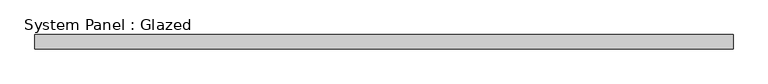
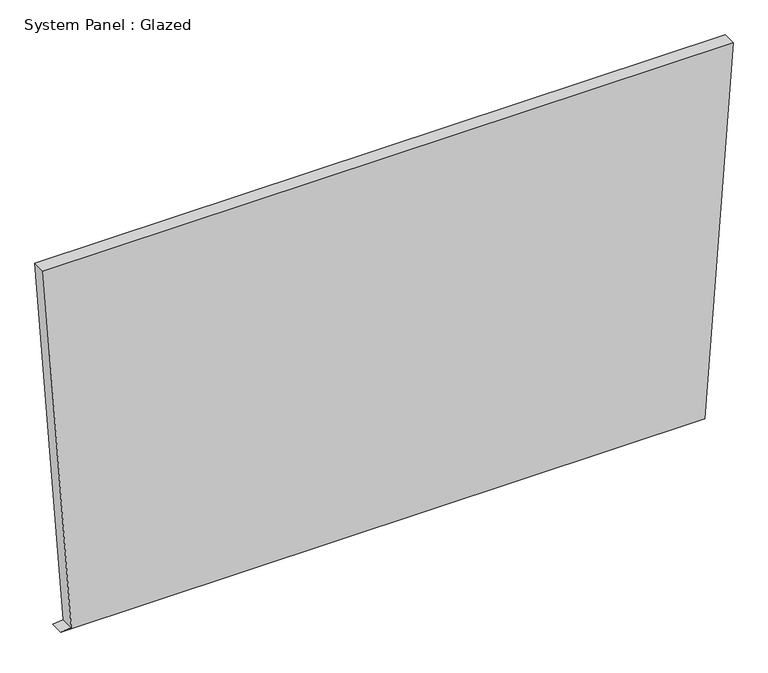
"""IFC4 building model written with IfcOpenShell, lengths in millimetres: plate geometry, System Panel : Glazed."""

from ifc_helpers import new_model, si_unit, frame, origin, place, context, project, spatial, polyline, outline, extrude, source, transform, mapped, element, save


def system_panel_glazed_fd4f438a(model_context):
    return source(origin(), model_context, "Body", "SweptSolid", [
        extrude(outline(polyline([(0.0, -594.7766719), (0.0027267, 575.6761515), (703.9399039, 626.9695531), (703.9369827, -626.9695531), (1.3844354, -575.7770446), (0.0, -594.7766719)])), frame((0.0, 19.05, 0.0), z_axis=(0.0, 1.0, 0.0), x_axis=(0.0, 0.0, 1.0)), (0.0, 0.0, 1.0), 25.4),
    ])


if __name__ == "__main__":
    model = new_model("IFC4")
    model_context = context("Model", 3, world=origin())
    ifc_project = project(units=[si_unit("LENGTHUNIT", "METRE", prefix="MILLI")], contexts=[model_context])
    site = spatial("IfcSite", under=ifc_project)
    building = spatial("IfcBuilding", under=site)
    placement = place(None, origin())
    system_panel_glazed_shape = system_panel_glazed_fd4f438a(model_context)
    element("IfcPlate", 1, ObjectType="System Panel : Glazed", at=placement, inside=building, context=model_context, shape_type="MappedRepresentation", body=[
        mapped(system_panel_glazed_shape, transform((0.0, 0.0, 0.0), x_axis=(1.0, 0.0, 0.0), y_axis=(0.0, 1.0, 0.0), z_axis=(0.0, 0.0, 1.0))),
    ])
    save(model, "model.ifc")
